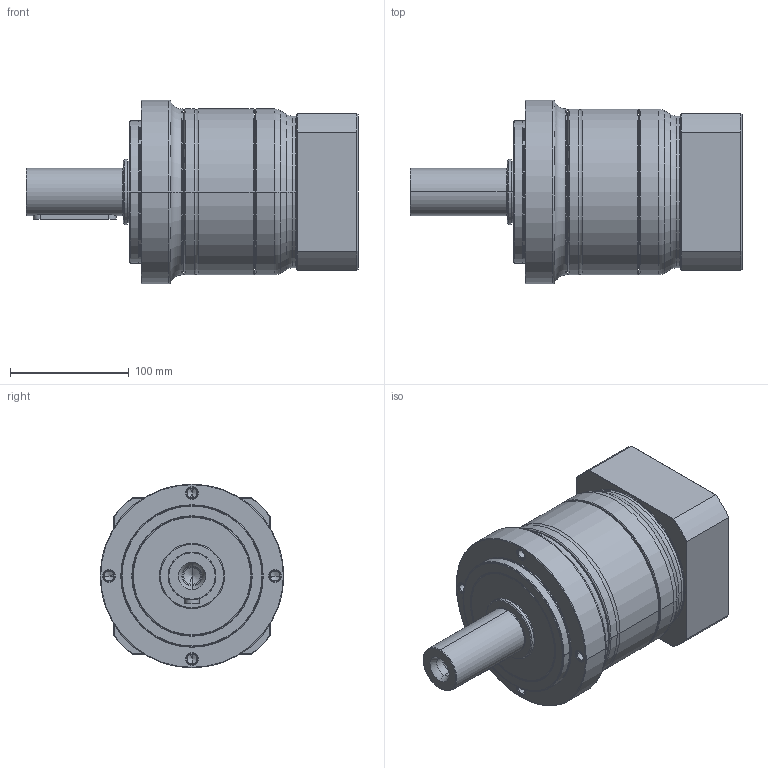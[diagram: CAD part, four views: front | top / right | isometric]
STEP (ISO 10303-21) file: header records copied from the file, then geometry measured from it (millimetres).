
FILE_DESCRIPTION((''),'2;1');
FILE_NAME('PE2-155_1ST_35-P0411800101_ASM','2016-04-26T',('d00435'),(''),'PRO/ENGINEER BY PARAMETRIC TECHNOLOGY CORPORATION, 2008410','PRO/ENGINEER BY PARAMETRIC TECHNOLOGY CORPORATION, 2008410','');
FILE_SCHEMA(('CONFIG_CONTROL_DESIGN'));
Length unit declared in the file: millimetre
Products named in the file (9): P1323510001; P0250500001; P1324500401; P0350501001; P0941504001; P0503800010; P0411800101; P1702600001; PE2-155_1ST_35-P0411800101_ASM
Assembly tree (8 placements, depth 2):
  PE2-155_1ST_35-P0411800101_ASM
    P1323510001
    P0250500001
    P1324500401
    P0350501001
    P0941504001
    P0503800010
    P0411800101
    P1702600001
Bounding box: 280 x 155 x 155 mm (x, y, z)
Volume: 2505030.2 mm3; surface area: 359139.2 mm2
Topology: 8 solids, 22 shells, 524 faces, 1171 edges, 692 vertices
Faces by surface type: cylinder 166, cone 144, torus 102, plane 96, bspline 16
Entity records: 19286 total; most frequent: CARTESIAN_POINT 7306, DIRECTION 2761, ORIENTED_EDGE 2214, AXIS2_PLACEMENT_3D 1194, EDGE_CURVE 1135, VERTEX_POINT 692, CIRCLE 659, EDGE_LOOP 605
